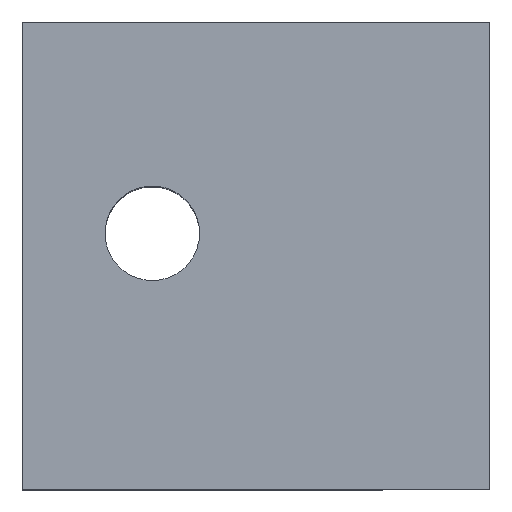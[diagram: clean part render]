
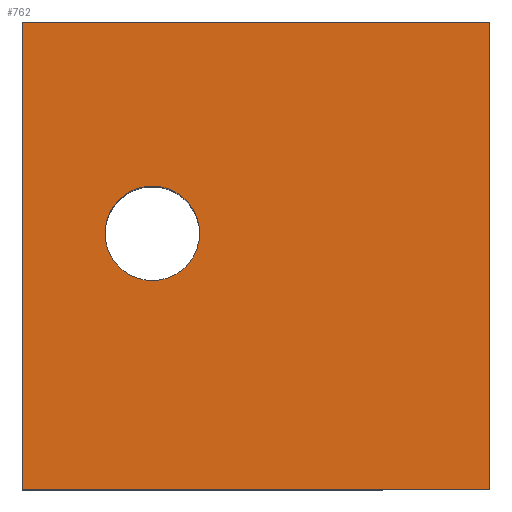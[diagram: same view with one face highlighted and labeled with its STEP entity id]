
A CAD part, top view. The second image highlights one B-rep face of the part: STEP entity #762.
In plain terms, the highlighted planar face has unit normal (0, 0, 1).
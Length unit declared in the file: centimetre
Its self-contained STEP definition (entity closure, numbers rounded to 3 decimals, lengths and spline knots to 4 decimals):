
#7 = VECTOR ( 'NONE', #1572, 100. ) ;
#13 = EDGE_CURVE ( 'NONE', #1232, #406, #1443, .T. ) ;
#19 = DIRECTION ( 'NONE',  ( 0., 0., 1. ) ) ;
#46 = VECTOR ( 'NONE', #1286, 100. ) ;
#50 = VERTEX_POINT ( 'NONE', #135 ) ;
#62 = CARTESIAN_POINT ( 'NONE',  ( 0., 1000., 1000. ) ) ;
#79 = CARTESIAN_POINT ( 'NONE',  ( 0., 1000., 1000. ) ) ;
#82 = CARTESIAN_POINT ( 'NONE',  ( 1000., 1000., 1000. ) ) ;
#101 = AXIS2_PLACEMENT_3D ( 'NONE', #1001, #1007, #1141 ) ;
#111 = LINE ( 'NONE', #719, #1590 ) ;
#135 = CARTESIAN_POINT ( 'NONE',  ( 176.9014, 547.6758, 1000. ) ) ;
#233 = DIRECTION ( 'NONE',  ( 1., 0., 0. ) ) ;
#406 = VERTEX_POINT ( 'NONE', #79 ) ;
#431 = ORIENTED_EDGE ( 'NONE', *, *, #1003, .F. ) ;
#482 = LINE ( 'NONE', #488, #1364 ) ;
#488 = CARTESIAN_POINT ( 'NONE',  ( 0., 0., 1000. ) ) ;
#509 = DIRECTION ( 'NONE',  ( 1., 0., 0. ) ) ;
#517 = CARTESIAN_POINT ( 'NONE',  ( 0., 0., 1000. ) ) ;
#518 = DIRECTION ( 'NONE',  ( 1., 0., 0. ) ) ;
#540 = CARTESIAN_POINT ( 'NONE',  ( 1000., 0., 1000. ) ) ;
#544 = CARTESIAN_POINT ( 'NONE',  ( 0., 1000., 1000. ) ) ;
#559 = VERTEX_POINT ( 'NONE', #740 ) ;
#572 = ORIENTED_EDGE ( 'NONE', *, *, #1028, .F. ) ;
#589 = EDGE_CURVE ( 'NONE', #1070, #1232, #111, .T. ) ;
#660 = LINE ( 'NONE', #62, #46 ) ;
#719 = CARTESIAN_POINT ( 'NONE',  ( 1000., 1000., 1000. ) ) ;
#740 = CARTESIAN_POINT ( 'NONE',  ( 379.347, 547.6758, 1000. ) ) ;
#762 = ADVANCED_FACE ( 'NONE', ( #1006, #1127 ), #1250, .T. ) ;
#846 = DIRECTION ( 'NONE',  ( 0., 1., 0. ) ) ;
#983 = CARTESIAN_POINT ( 'NONE',  ( 0., 0., 1000. ) ) ;
#1001 = CARTESIAN_POINT ( 'NONE',  ( 278.1242, 547.6758, 1000. ) ) ;
#1003 = EDGE_CURVE ( 'NONE', #50, #559, #1142, .T. ) ;
#1006 = FACE_BOUND ( 'NONE', #1229, .T. ) ;
#1007 = DIRECTION ( 'NONE',  ( 0., 0., 1. ) ) ;
#1028 = EDGE_CURVE ( 'NONE', #559, #50, #1431, .T. ) ;
#1070 = VERTEX_POINT ( 'NONE', #540 ) ;
#1093 = EDGE_LOOP ( 'NONE', ( #1130, #1409, #1465, #1274 ) ) ;
#1121 = AXIS2_PLACEMENT_3D ( 'NONE', #1266, #19, #518 ) ;
#1127 = FACE_OUTER_BOUND ( 'NONE', #1093, .T. ) ;
#1130 = ORIENTED_EDGE ( 'NONE', *, *, #1537, .T. ) ;
#1139 = AXIS2_PLACEMENT_3D ( 'NONE', #517, #1257, #509 ) ;
#1141 = DIRECTION ( 'NONE',  ( 1., 0., 0. ) ) ;
#1142 = CIRCLE ( 'NONE', #1121, 101.2228 ) ;
#1205 = VERTEX_POINT ( 'NONE', #983 ) ;
#1222 = EDGE_CURVE ( 'NONE', #1205, #1070, #482, .T. ) ;
#1229 = EDGE_LOOP ( 'NONE', ( #572, #431 ) ) ;
#1232 = VERTEX_POINT ( 'NONE', #82 ) ;
#1250 = PLANE ( 'NONE',  #1139 ) ;
#1257 = DIRECTION ( 'NONE',  ( 0., 0., 1. ) ) ;
#1266 = CARTESIAN_POINT ( 'NONE',  ( 278.1242, 547.6758, 1000. ) ) ;
#1274 = ORIENTED_EDGE ( 'NONE', *, *, #13, .T. ) ;
#1286 = DIRECTION ( 'NONE',  ( 0., -1., 0. ) ) ;
#1364 = VECTOR ( 'NONE', #233, 100. ) ;
#1409 = ORIENTED_EDGE ( 'NONE', *, *, #1222, .T. ) ;
#1431 = CIRCLE ( 'NONE', #101, 101.2228 ) ;
#1443 = LINE ( 'NONE', #544, #7 ) ;
#1465 = ORIENTED_EDGE ( 'NONE', *, *, #589, .T. ) ;
#1537 = EDGE_CURVE ( 'NONE', #406, #1205, #660, .T. ) ;
#1572 = DIRECTION ( 'NONE',  ( -1., 0., 0. ) ) ;
#1590 = VECTOR ( 'NONE', #846, 100. ) ;
